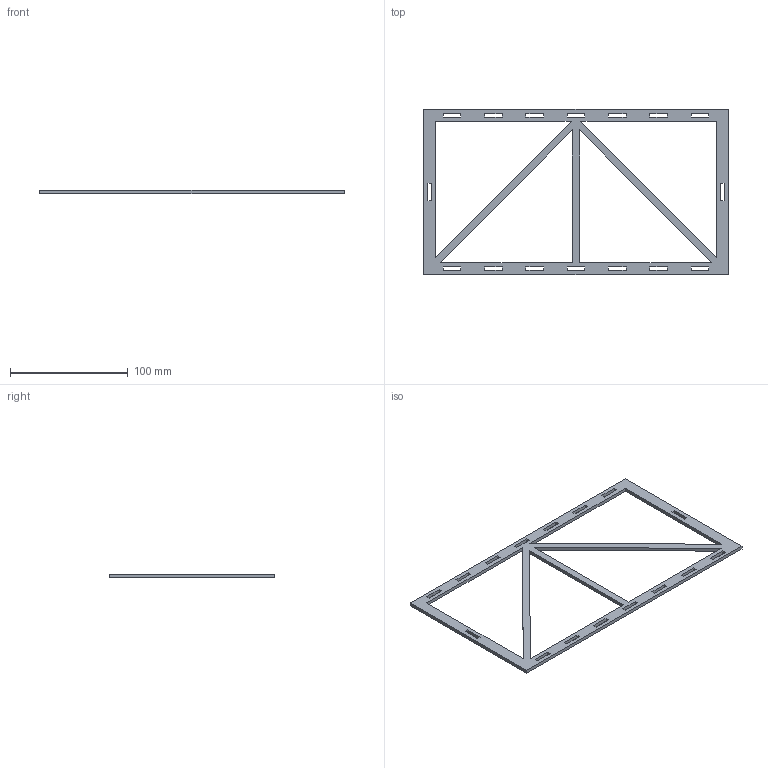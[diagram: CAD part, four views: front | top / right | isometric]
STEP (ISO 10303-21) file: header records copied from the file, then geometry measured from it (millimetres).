
FILE_DESCRIPTION(/* description */ (''),/* implementation_level */ '2;1');
FILE_NAME(/* name */ 'Top Mid v30.step',/* time_stamp */ '2023-08-12T23:53:17+03:00',/* author */ (''),/* organization */ (''),/* preprocessor_version */ 'ST-DEVELOPER v20',/* originating_system */ 'Autodesk Translation Framework v12.9.0.99',/* authorisation */ '');
FILE_SCHEMA (('AUTOMOTIVE_DESIGN { 1 0 10303 214 3 1 1 }'));
Length unit declared in the file: millimetre
Products named in the file (1): Top Mid
Bounding box: 258 x 140 x 3 mm (x, y, z)
Volume: 28552.1 mm3; surface area: 27811.2 mm2
Topology: 1 solids, 1 shells, 82 faces, 240 edges, 160 vertices
Faces by surface type: plane 82
Entity records: 2777 total; most frequent: CARTESIAN_POINT 483, ORIENTED_EDGE 480, DIRECTION 406, LINE 240, VECTOR 240, EDGE_CURVE 240, VERTEX_POINT 160, EDGE_LOOP 122
